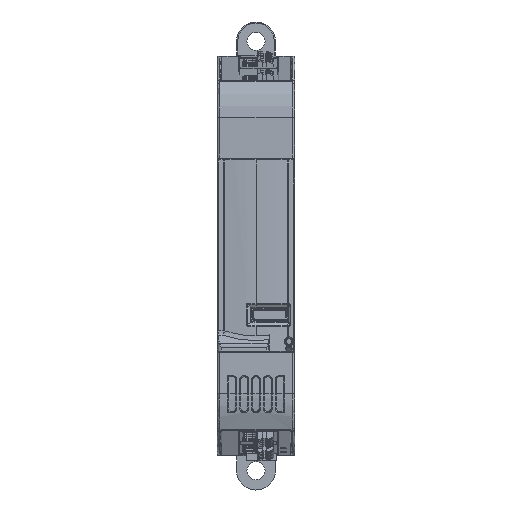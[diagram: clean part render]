
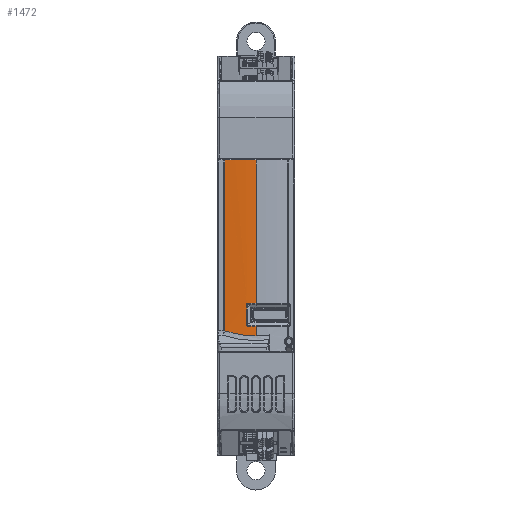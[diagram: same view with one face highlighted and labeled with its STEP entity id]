
A CAD part, top view. The second image highlights one B-rep face of the part: STEP entity #1472.
In plain terms, the highlighted cylindrical face has radius 71.119 mm (diameter 142.239 mm), a partial arc.
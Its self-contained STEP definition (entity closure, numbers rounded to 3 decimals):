
#1472 = ADVANCED_FACE ( 'NONE', ( #140458 ), #43840, .T. ) ;
#2865 = CARTESIAN_POINT ( 'NONE',  ( 1.726, -17.519, 64.468 ) ) ;
#4237 = CARTESIAN_POINT ( 'NONE',  ( 7.049, -16.442, 64.815 ) ) ;
#5972 = CARTESIAN_POINT ( 'NONE',  ( 1.726, -37.405, 64.468 ) ) ;
#6557 = EDGE_CURVE ( 'NONE', #111685, #128288, #58310, .T. ) ;
#6882 = CARTESIAN_POINT ( 'NONE',  ( 6.812, -16.114, 64.808 ) ) ;
#8556 = CARTESIAN_POINT ( 'NONE',  ( 7.049, -11.158, 64.815 ) ) ;
#8666 = CARTESIAN_POINT ( 'NONE',  ( 6.843, -16.288, 64.809 ) ) ;
#9272 = CIRCLE ( 'NONE', #55415, 71.119 ) ;
#11206 = B_SPLINE_CURVE_WITH_KNOTS ( 'NONE', 3,
 ( #16015, #71951, #4237, #58411, #169505, #100797, #8666, #173040, #20412, #6882 ),
 .UNSPECIFIED., .F., .F.,
 ( 4, 2, 2, 2, 4 ),
 ( 0., 0., 0., 0., 0.001 ),
 .UNSPECIFIED. ) ;
#13393 = DIRECTION ( 'NONE',  ( 0., 1., 0. ) ) ;
#13908 = AXIS2_PLACEMENT_3D ( 'NONE', #71822, #98905, #59169 ) ;
#15181 = CARTESIAN_POINT ( 'NONE',  ( 6.812, -37.405, 64.808 ) ) ;
#16015 = CARTESIAN_POINT ( 'NONE',  ( 7.138, -16.447, 64.817 ) ) ;
#16316 = EDGE_CURVE ( 'NONE', #17435, #176731, #85795, .T. ) ;
#17435 = VERTEX_POINT ( 'NONE', #2865 ) ;
#20412 = CARTESIAN_POINT ( 'NONE',  ( 6.812, -16.159, 64.808 ) ) ;
#22967 = ORIENTED_EDGE ( 'NONE', *, *, #64253, .T. ) ;
#29479 = VERTEX_POINT ( 'NONE', #77539 ) ;
#31899 = ORIENTED_EDGE ( 'NONE', *, *, #16316, .T. ) ;
#35584 = AXIS2_PLACEMENT_3D ( 'NONE', #55383, #40935, #151145 ) ;
#35930 = LINE ( 'NONE', #119905, #69577 ) ;
#40935 = DIRECTION ( 'NONE',  ( 0., 1., 0. ) ) ;
#42237 = LINE ( 'NONE', #15181, #152962 ) ;
#42497 = VERTEX_POINT ( 'NONE', #50866 ) ;
#43840 = CYLINDRICAL_SURFACE ( 'NONE', #13908, 71.119 ) ;
#47477 = DIRECTION ( 'NONE',  ( 0., -1., 0. ) ) ;
#50866 = CARTESIAN_POINT ( 'NONE',  ( 1.726, 22.25, 64.468 ) ) ;
#51261 = DIRECTION ( 'NONE',  ( 0., -1., 0. ) ) ;
#51847 = CARTESIAN_POINT ( 'NONE',  ( 6.843, -11.312, 64.809 ) ) ;
#51900 = VECTOR ( 'NONE', #149411, 1000. ) ;
#52586 = VECTOR ( 'NONE', #47477, 1000. ) ;
#52756 = CARTESIAN_POINT ( 'NONE',  ( 6.57, -18.731, 64.841 ) ) ;
#53626 = CARTESIAN_POINT ( 'NONE',  ( 7.093, -11.153, 64.816 ) ) ;
#55383 = CARTESIAN_POINT ( 'NONE',  ( 9., -11.153, -6.278 ) ) ;
#55415 = AXIS2_PLACEMENT_3D ( 'NONE', #133457, #51261, #104553 ) ;
#58310 = CIRCLE ( 'NONE', #35584, 71.119 ) ;
#58411 = CARTESIAN_POINT ( 'NONE',  ( 6.965, -16.414, 64.812 ) ) ;
#58580 = CARTESIAN_POINT ( 'NONE',  ( 9., 22.25, 64.841 ) ) ;
#59169 = DIRECTION ( 'NONE',  ( 0., 0., 1. ) ) ;
#61131 = CARTESIAN_POINT ( 'NONE',  ( 9., -11.153, 64.841 ) ) ;
#64253 = EDGE_CURVE ( 'NONE', #128288, #104264, #93404, .T. ) ;
#65526 = AXIS2_PLACEMENT_3D ( 'NONE', #104072, #102302, #161006 ) ;
#66061 = B_SPLINE_CURVE_WITH_KNOTS ( 'NONE', 3,
 ( #67174, #148493, #105136, #51847, #147596, #135819, #132247, #8556, #53626, #94247 ),
 .UNSPECIFIED., .F., .F.,
 ( 4, 2, 2, 2, 4 ),
 ( 0., 0., 0., 0., 0.001 ),
 .UNSPECIFIED. ) ;
#66879 = EDGE_CURVE ( 'NONE', #176731, #29479, #35930, .T. ) ;
#67174 = CARTESIAN_POINT ( 'NONE',  ( 6.812, -11.486, 64.808 ) ) ;
#69199 = CARTESIAN_POINT ( 'NONE',  ( 6.812, -16.114, 64.808 ) ) ;
#69577 = VECTOR ( 'NONE', #162404, 1000. ) ;
#71822 = CARTESIAN_POINT ( 'NONE',  ( 9., -37.405, -6.278 ) ) ;
#71951 = CARTESIAN_POINT ( 'NONE',  ( 7.093, -16.447, 64.816 ) ) ;
#74070 = ORIENTED_EDGE ( 'NONE', *, *, #106646, .T. ) ;
#77539 = CARTESIAN_POINT ( 'NONE',  ( 9., -16.447, 64.841 ) ) ;
#79309 = ORIENTED_EDGE ( 'NONE', *, *, #100303, .T. ) ;
#79353 = VERTEX_POINT ( 'NONE', #144480 ) ;
#81295 = EDGE_LOOP ( 'NONE', ( #31899, #175053, #79309, #118581, #175356, #74070, #111028, #22967, #121278, #162767 ) ) ;
#83410 = CARTESIAN_POINT ( 'NONE',  ( 1.726, -17.519, 64.468 ) ) ;
#85795 =( BOUNDED_CURVE ( )  B_SPLINE_CURVE ( 3, ( #83410, #109613, #52756, #138524 ),
 .UNSPECIFIED., .F., .F. ) 
 B_SPLINE_CURVE_WITH_KNOTS ( ( 4, 4 ),
 ( 3.039, 3.142 ),
 .UNSPECIFIED. ) 
 CURVE ( )  GEOMETRIC_REPRESENTATION_ITEM ( )  RATIONAL_B_SPLINE_CURVE ( ( 1., 0.999, 0.999, 1. ) ) 
 REPRESENTATION_ITEM ( '' )  );
#93404 = LINE ( 'NONE', #146740, #51900 ) ;
#94247 = CARTESIAN_POINT ( 'NONE',  ( 7.138, -11.153, 64.817 ) ) ;
#98905 = DIRECTION ( 'NONE',  ( 0., 1., 0. ) ) ;
#100303 = EDGE_CURVE ( 'NONE', #29479, #103339, #114499, .T. ) ;
#100797 = CARTESIAN_POINT ( 'NONE',  ( 6.865, -16.328, 64.809 ) ) ;
#102302 = DIRECTION ( 'NONE',  ( 0., -1., 0. ) ) ;
#103339 = VERTEX_POINT ( 'NONE', #133183 ) ;
#103427 = LINE ( 'NONE', #5972, #52586 ) ;
#104072 = CARTESIAN_POINT ( 'NONE',  ( 9., -16.447, -6.278 ) ) ;
#104264 = VERTEX_POINT ( 'NONE', #58580 ) ;
#104553 = DIRECTION ( 'NONE',  ( 0., 0., 1. ) ) ;
#105136 = CARTESIAN_POINT ( 'NONE',  ( 6.817, -11.397, 64.808 ) ) ;
#106646 = EDGE_CURVE ( 'NONE', #79353, #111685, #66061, .T. ) ;
#109613 = CARTESIAN_POINT ( 'NONE',  ( 4.143, -18.326, 64.717 ) ) ;
#110921 = EDGE_CURVE ( 'NONE', #161548, #79353, #42237, .T. ) ;
#111028 = ORIENTED_EDGE ( 'NONE', *, *, #6557, .T. ) ;
#111685 = VERTEX_POINT ( 'NONE', #112874 ) ;
#112874 = CARTESIAN_POINT ( 'NONE',  ( 7.138, -11.153, 64.817 ) ) ;
#114499 = CIRCLE ( 'NONE', #65526, 71.119 ) ;
#118581 = ORIENTED_EDGE ( 'NONE', *, *, #174479, .T. ) ;
#119905 = CARTESIAN_POINT ( 'NONE',  ( 9., -37.405, 64.841 ) ) ;
#121278 = ORIENTED_EDGE ( 'NONE', *, *, #151457, .T. ) ;
#128288 = VERTEX_POINT ( 'NONE', #61131 ) ;
#132247 = CARTESIAN_POINT ( 'NONE',  ( 6.965, -11.186, 64.812 ) ) ;
#133183 = CARTESIAN_POINT ( 'NONE',  ( 7.138, -16.447, 64.817 ) ) ;
#133457 = CARTESIAN_POINT ( 'NONE',  ( 9., 22.25, -6.278 ) ) ;
#135819 = CARTESIAN_POINT ( 'NONE',  ( 6.926, -11.209, 64.811 ) ) ;
#138524 = CARTESIAN_POINT ( 'NONE',  ( 9., -18.731, 64.841 ) ) ;
#140458 = FACE_OUTER_BOUND ( 'NONE', #81295, .T. ) ;
#144480 = CARTESIAN_POINT ( 'NONE',  ( 6.812, -11.486, 64.808 ) ) ;
#146740 = CARTESIAN_POINT ( 'NONE',  ( 9., -37.405, 64.841 ) ) ;
#147596 = CARTESIAN_POINT ( 'NONE',  ( 6.865, -11.272, 64.809 ) ) ;
#148493 = CARTESIAN_POINT ( 'NONE',  ( 6.812, -11.441, 64.808 ) ) ;
#149411 = DIRECTION ( 'NONE',  ( 0., 1., 0. ) ) ;
#151145 = DIRECTION ( 'NONE',  ( 0., 0., -1. ) ) ;
#151457 = EDGE_CURVE ( 'NONE', #104264, #42497, #9272, .T. ) ;
#152962 = VECTOR ( 'NONE', #13393, 1000. ) ;
#154610 = EDGE_CURVE ( 'NONE', #42497, #17435, #103427, .T. ) ;
#161006 = DIRECTION ( 'NONE',  ( 0., 0., 1. ) ) ;
#161548 = VERTEX_POINT ( 'NONE', #69199 ) ;
#162404 = DIRECTION ( 'NONE',  ( 0., 1., 0. ) ) ;
#162643 = CARTESIAN_POINT ( 'NONE',  ( 9., -18.731, 64.841 ) ) ;
#162767 = ORIENTED_EDGE ( 'NONE', *, *, #154610, .T. ) ;
#169505 = CARTESIAN_POINT ( 'NONE',  ( 6.926, -16.391, 64.811 ) ) ;
#173040 = CARTESIAN_POINT ( 'NONE',  ( 6.817, -16.203, 64.808 ) ) ;
#174479 = EDGE_CURVE ( 'NONE', #103339, #161548, #11206, .T. ) ;
#175053 = ORIENTED_EDGE ( 'NONE', *, *, #66879, .T. ) ;
#175356 = ORIENTED_EDGE ( 'NONE', *, *, #110921, .T. ) ;
#176731 = VERTEX_POINT ( 'NONE', #162643 ) ;
